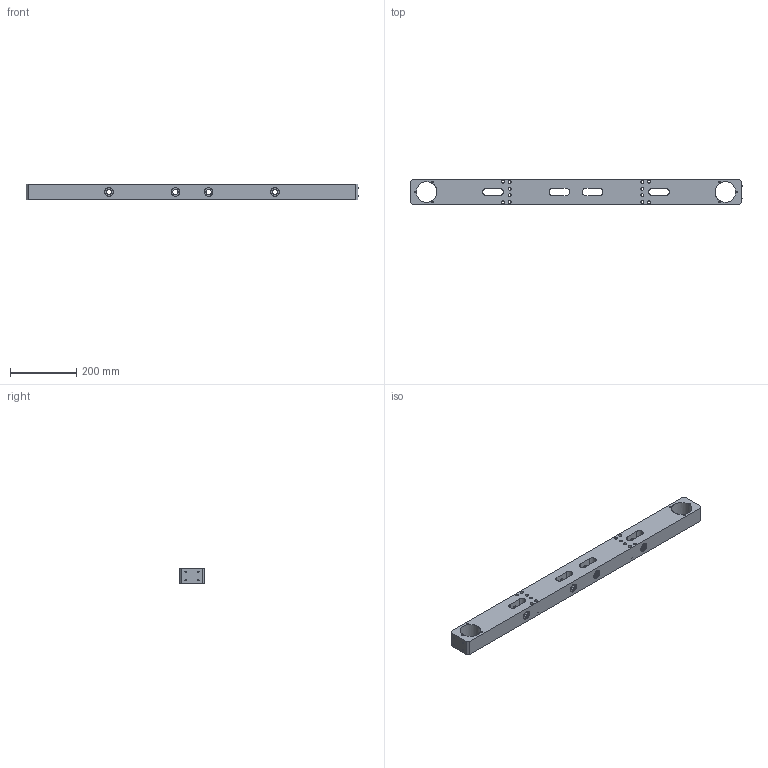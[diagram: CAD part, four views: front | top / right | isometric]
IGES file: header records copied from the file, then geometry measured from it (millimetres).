
Start section: File produced by SOLID-CONCEP (Trim Surfaces - Entity 144)
Global section: file name: 01.igs; native system: SOLID-CONCEPT V.5.xx; preprocessor: SOLID-CONCEPT-IGES-OUT v2.00; date: 100220.132334; units: millimetre
Bounding box: 1000 x 78 x 48 mm (x, y, z)
Surface area: 309854 mm2 (no closed solid volume)
Topology: 0 solids, 0 shells, 120 faces, 856 edges, 720 vertices
Faces by surface type: revolution 86, bspline 34
